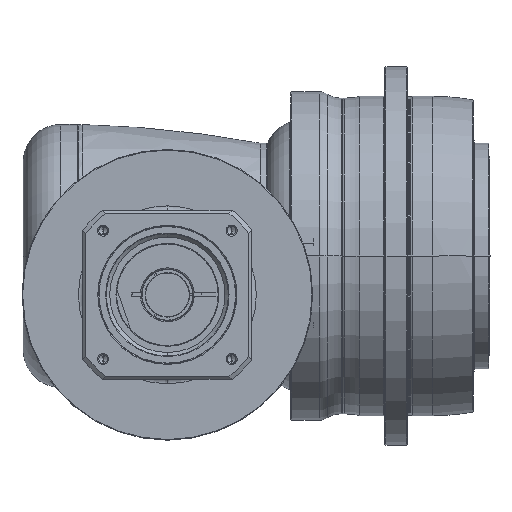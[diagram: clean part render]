
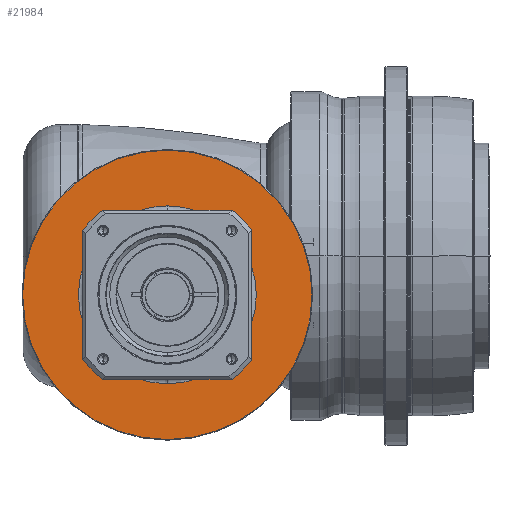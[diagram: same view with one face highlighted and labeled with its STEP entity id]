
A CAD part, front view. The second image highlights one B-rep face of the part: STEP entity #21984.
In plain terms, the highlighted planar face has unit normal (0, -1, 0) as drawn and (1, 0, 0) by its records, which use the part's own axes.
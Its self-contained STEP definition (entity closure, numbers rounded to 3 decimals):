
#20615=CARTESIAN_POINT('',(-7.5,0.,0.));
#20616=DIRECTION('',(-1.,0.,0.));
#20617=DIRECTION('',(0.,-1.,0.));
#20618=AXIS2_PLACEMENT_3D('',#20615,#20616,#20617);
#20620=CARTESIAN_POINT('',(-7.5,0.,0.));
#20621=DIRECTION('',(-1.,0.,0.));
#20622=DIRECTION('',(0.,1.,0.));
#20623=AXIS2_PLACEMENT_3D('',#20620,#20621,#20622);
#20625=CARTESIAN_POINT('',(-7.5,0.,0.));
#20626=DIRECTION('',(-1.,0.,0.));
#20627=DIRECTION('',(0.,-1.,0.));
#20628=AXIS2_PLACEMENT_3D('',#20625,#20626,#20627);
#20630=CARTESIAN_POINT('',(-7.5,0.,0.));
#20631=DIRECTION('',(-1.,0.,0.));
#20632=DIRECTION('',(0.,1.,0.));
#20633=AXIS2_PLACEMENT_3D('',#20630,#20631,#20632);
#20908=CARTESIAN_POINT('',(-7.5,-115.5,0.));
#20909=CARTESIAN_POINT('',(-7.5,115.5,0.));
#20910=VERTEX_POINT('',#20908);
#20911=VERTEX_POINT('',#20909);
#20924=CARTESIAN_POINT('',(-7.5,-71.,0.));
#20925=CARTESIAN_POINT('',(-7.5,71.,0.));
#20926=VERTEX_POINT('',#20924);
#20927=VERTEX_POINT('',#20925);
#21969=CARTESIAN_POINT('',(-7.5,0.,0.));
#21970=DIRECTION('',(1.,0.,0.));
#21971=DIRECTION('',(0.,-1.,0.));
#21972=AXIS2_PLACEMENT_3D('',#21969,#21970,#21971);
#21973=PLANE('',#21972);
#21974=ORIENTED_EDGE('',*,*,#21925,.T.);
#21975=ORIENTED_EDGE('',*,*,#21910,.T.);
#21976=EDGE_LOOP('',(#21974,#21975));
#21977=FACE_OUTER_BOUND('',#21976,.F.);
#21979=ORIENTED_EDGE('',*,*,#21978,.F.);
#21981=ORIENTED_EDGE('',*,*,#21980,.F.);
#21982=EDGE_LOOP('',(#21979,#21981));
#21983=FACE_BOUND('',#21982,.F.);
#21984=ADVANCED_FACE('',(#21977,#21983),#21973,.T.);
#20619=CIRCLE('',#20618,71.);
#20624=CIRCLE('',#20623,71.);
#20629=CIRCLE('',#20628,115.5);
#20634=CIRCLE('',#20633,115.5);
#21910=EDGE_CURVE('',#20911,#20910,#20634,.T.);
#21925=EDGE_CURVE('',#20910,#20911,#20629,.T.);
#21978=EDGE_CURVE('',#20926,#20927,#20619,.T.);
#21980=EDGE_CURVE('',#20927,#20926,#20624,.T.);
